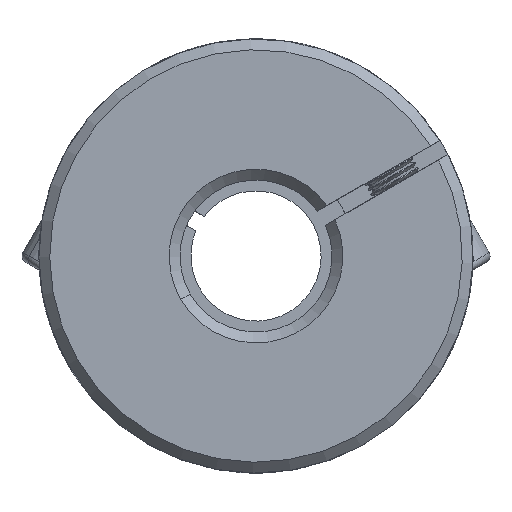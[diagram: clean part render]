
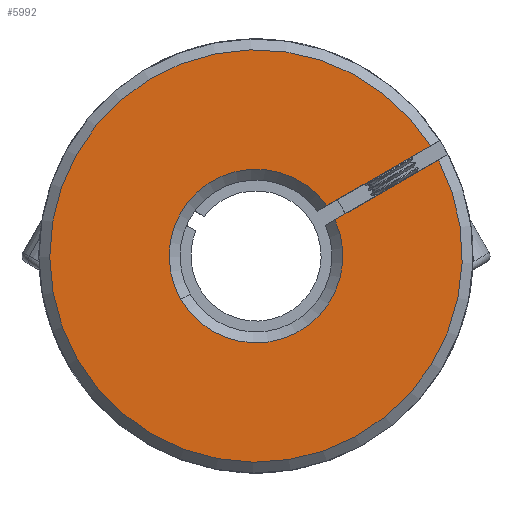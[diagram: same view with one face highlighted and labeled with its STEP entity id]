
A CAD part, front view. The second image highlights one B-rep face of the part: STEP entity #5992.
In plain terms, the highlighted planar face has unit normal (0, -1, 0).
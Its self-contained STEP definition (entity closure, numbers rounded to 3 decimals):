
#775 = VERTEX_POINT ( 'NONE', #8810 ) ;
#821 = CARTESIAN_POINT ( 'NONE',  ( 4.204, -31.239, 44.131 ) ) ;
#884 = VECTOR ( 'NONE', #7500, 1000. ) ;
#1225 = EDGE_LOOP ( 'NONE', ( #9212, #11931, #4366, #5272, #5028 ) ) ;
#1729 = PLANE ( 'NONE',  #11244 ) ;
#2089 = AXIS2_PLACEMENT_3D ( 'NONE', #2258, #12075, #13140 ) ;
#2258 = CARTESIAN_POINT ( 'NONE',  ( -1.447, -31.239, 40. ) ) ;
#2548 = CARTESIAN_POINT ( 'NONE',  ( -1.447, -31.239, 40. ) ) ;
#2630 = FACE_OUTER_BOUND ( 'NONE', #1225, .T. ) ;
#3732 = VERTEX_POINT ( 'NONE', #10138 ) ;
#3874 = VERTEX_POINT ( 'NONE', #7097 ) ;
#4049 = EDGE_CURVE ( 'NONE', #11712, #3874, #10746, .T. ) ;
#4141 = EDGE_CURVE ( 'NONE', #6560, #3732, #7755, .T. ) ;
#4366 = ORIENTED_EDGE ( 'NONE', *, *, #8941, .T. ) ;
#4499 = LINE ( 'NONE', #7021, #5334 ) ;
#4948 = DIRECTION ( 'NONE',  ( 0.866, 0., 0.5 ) ) ;
#5007 = DIRECTION ( 'NONE',  ( 0., 1., 0. ) ) ;
#5028 = ORIENTED_EDGE ( 'NONE', *, *, #4049, .T. ) ;
#5138 = CARTESIAN_POINT ( 'NONE',  ( 52.98, -31.239, 45.743 ) ) ;
#5272 = ORIENTED_EDGE ( 'NONE', *, *, #12198, .F. ) ;
#5334 = VECTOR ( 'NONE', #4948, 1000. ) ;
#5479 = EDGE_CURVE ( 'NONE', #6560, #3874, #4499, .T. ) ;
#5992 = ADVANCED_FACE ( 'NONE', ( #2630 ), #1729, .F. ) ;
#6184 = DIRECTION ( 'NONE',  ( 0., 1., 0. ) ) ;
#6560 = VERTEX_POINT ( 'NONE', #9320 ) ;
#6954 = CIRCLE ( 'NONE', #10306, 8. ) ;
#7021 = CARTESIAN_POINT ( 'NONE',  ( 4.954, -31.239, 42.832 ) ) ;
#7097 = CARTESIAN_POINT ( 'NONE',  ( 15.367, -31.239, 48.848 ) ) ;
#7500 = DIRECTION ( 'NONE',  ( -0.866, 0., -0.5 ) ) ;
#7755 = CIRCLE ( 'NONE', #8996, 8. ) ;
#8810 = CARTESIAN_POINT ( 'NONE',  ( 5.074, -31.239, 44.634 ) ) ;
#8822 = CARTESIAN_POINT ( 'NONE',  ( 14.616, -31.239, 50.147 ) ) ;
#8941 = EDGE_CURVE ( 'NONE', #3732, #775, #6954, .T. ) ;
#8996 = AXIS2_PLACEMENT_3D ( 'NONE', #2548, #10043, #12164 ) ;
#9212 = ORIENTED_EDGE ( 'NONE', *, *, #5479, .F. ) ;
#9320 = CARTESIAN_POINT ( 'NONE',  ( 5.825, -31.239, 43.335 ) ) ;
#10043 = DIRECTION ( 'NONE',  ( 0., 1., 0. ) ) ;
#10138 = CARTESIAN_POINT ( 'NONE',  ( -8.374, -31.239, 35.998 ) ) ;
#10306 = AXIS2_PLACEMENT_3D ( 'NONE', #12272, #6184, #10488 ) ;
#10488 = DIRECTION ( 'NONE',  ( 0.5, 0., -0.866 ) ) ;
#10746 = CIRCLE ( 'NONE', #2089, 19. ) ;
#11244 = AXIS2_PLACEMENT_3D ( 'NONE', #5138, #5007, #12669 ) ;
#11349 = LINE ( 'NONE', #821, #884 ) ;
#11712 = VERTEX_POINT ( 'NONE', #8822 ) ;
#11931 = ORIENTED_EDGE ( 'NONE', *, *, #4141, .T. ) ;
#12075 = DIRECTION ( 'NONE',  ( 0., -1., 0. ) ) ;
#12164 = DIRECTION ( 'NONE',  ( 0.5, 0., -0.866 ) ) ;
#12198 = EDGE_CURVE ( 'NONE', #11712, #775, #11349, .T. ) ;
#12272 = CARTESIAN_POINT ( 'NONE',  ( -1.447, -31.239, 40. ) ) ;
#12669 = DIRECTION ( 'NONE',  ( 0.5, 0., -0.866 ) ) ;
#13140 = DIRECTION ( 'NONE',  ( 0.5, 0., -0.866 ) ) ;
